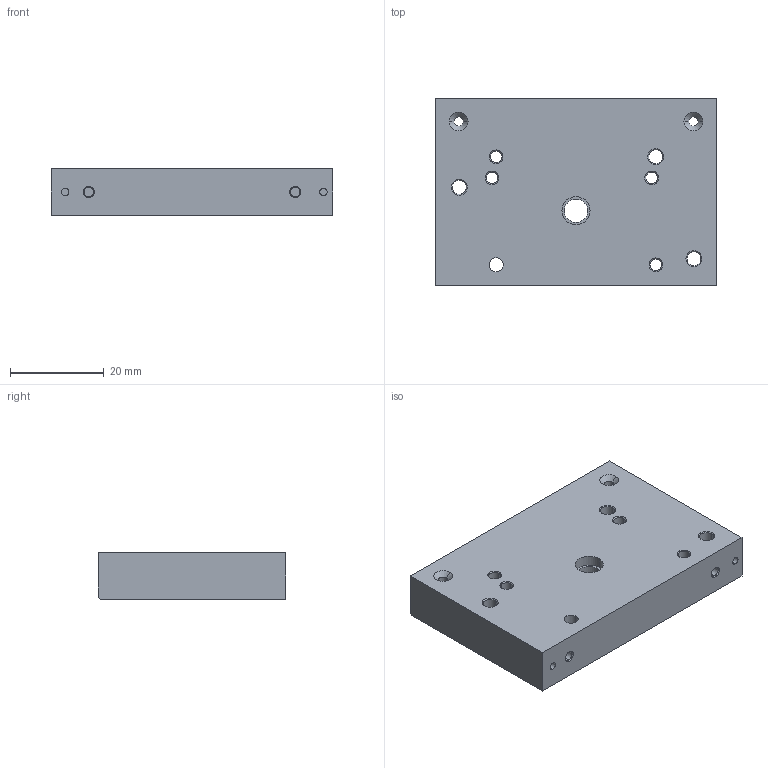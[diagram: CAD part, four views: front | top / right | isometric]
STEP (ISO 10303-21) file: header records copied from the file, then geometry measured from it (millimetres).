
FILE_DESCRIPTION (( 'STEP AP214' ), '1' );
FILE_NAME ('C16.STEP', '2016-02-27T13:08:39', ( '' ), ( '' ), 'SwSTEP 2.0', 'SolidWorks 2012', '' );
FILE_SCHEMA (( 'AUTOMOTIVE_DESIGN' ));
Length unit declared in the file: millimetre
Products named in the file (1): C16
Bounding box: 60 x 40 x 10 mm (x, y, z)
Volume: 22919.7 mm3; surface area: 7884 mm2
Topology: 1 solids, 1 shells, 129 faces, 304 edges, 188 vertices
Faces by surface type: cone 46, cylinder 36, plane 29, bspline 18
Entity records: 4800 total; most frequent: CARTESIAN_POINT 1784, DIRECTION 612, ORIENTED_EDGE 608, EDGE_CURVE 304, AXIS2_PLACEMENT_3D 232, VERTEX_POINT 188, EDGE_LOOP 162, VECTOR 148
